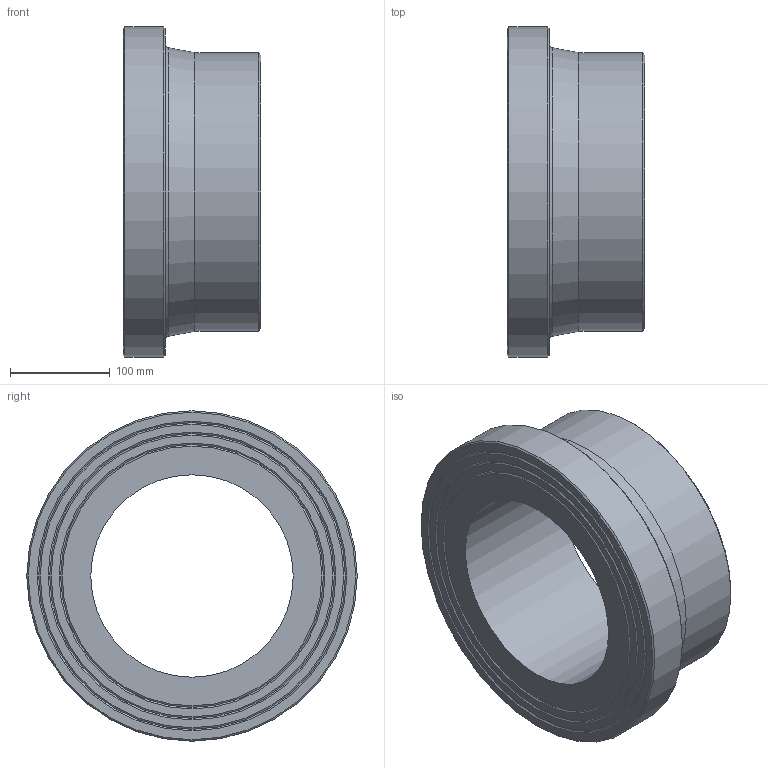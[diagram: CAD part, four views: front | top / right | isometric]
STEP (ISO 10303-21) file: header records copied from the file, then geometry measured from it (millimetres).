
FILE_DESCRIPTION(/* description */ ('Unknown'),/* implementation_level */ '2;1');
FILE_NAME(/* name */ 'CCP280H',/* time_stamp */ '2022-04-04T12:18:50+02:00',/* author */ ('Unknown'),/* organization */ ('Unknown'),/* preprocessor_version */ 'ST-DEVELOPER v18.1',/* originating_system */ 'Solid Edge',/* authorisation */ 'Unknown');
FILE_SCHEMA (('AUTOMOTIVE_DESIGN {1 0 10303 214 3 1 1}'));
Length unit declared in the file: millimetre
Products named in the file (1): CCP280H
Bounding box: 138 x 332 x 332 mm (x, y, z)
Volume: 5129131.9 mm3; surface area: 318419.2 mm2
Topology: 1 solids, 1 shells, 20 faces, 35 edges, 21 vertices
Faces by surface type: cone 10, plane 6, cylinder 3, torus 1
Full cylindrical faces by diameter (mm): 203.4 x1, 280 x1, 332 x1
Entity records: 438 total; most frequent: DIRECTION 82, CARTESIAN_POINT 61, AXIS2_PLACEMENT_3D 41, ORIENTED_EDGE 40, EDGE_LOOP 40, FACE_BOUND 40, EDGE_CURVE 20, VERTEX_POINT 20
